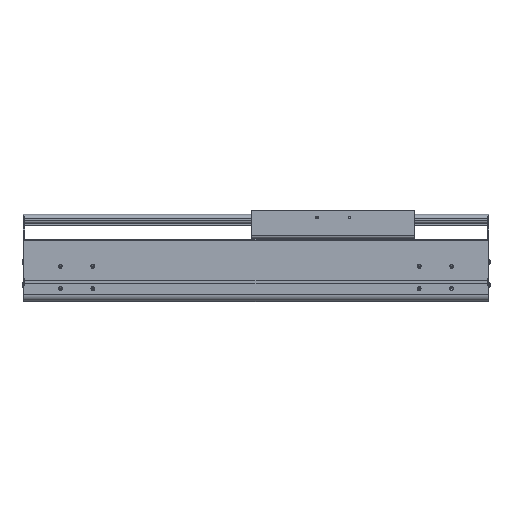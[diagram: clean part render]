
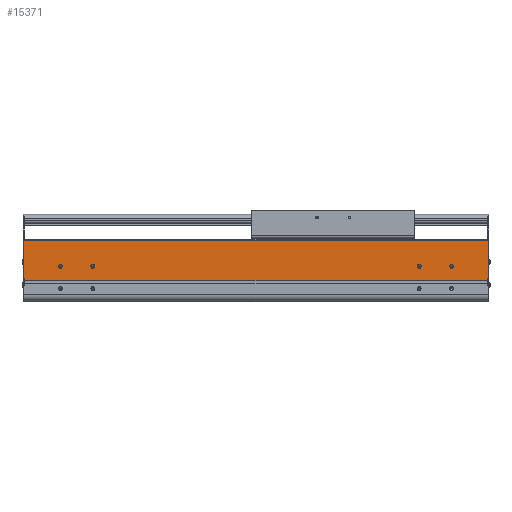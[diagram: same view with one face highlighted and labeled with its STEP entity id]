
A CAD part, top view. The second image highlights one B-rep face of the part: STEP entity #15371.
In plain terms, the highlighted planar face has unit normal (0, 0, 1).
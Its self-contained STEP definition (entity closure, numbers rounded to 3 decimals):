
#1626=DIRECTION('',(0.,-1.,0.));
#1627=VECTOR('',#1626,2.55);
#1628=CARTESIAN_POINT('',(0.,34.65,107.));
#1629=LINE('',#1628,#1627);
#2109=DIRECTION('',(1.,0.,0.));
#2110=VECTOR('',#2109,2.);
#2111=CARTESIAN_POINT('',(-711.,34.65,107.));
#2112=LINE('',#2111,#2110);
#2113=CARTESIAN_POINT('',(-54.5,54.,107.));
#2114=DIRECTION('',(0.,0.,-1.));
#2115=DIRECTION('',(1.,0.,0.));
#2116=AXIS2_PLACEMENT_3D('',#2113,#2114,#2115);
#2118=CARTESIAN_POINT('',(-54.5,54.,107.));
#2119=DIRECTION('',(0.,0.,-1.));
#2120=DIRECTION('',(-1.,0.,0.));
#2121=AXIS2_PLACEMENT_3D('',#2118,#2119,#2120);
#2123=CARTESIAN_POINT('',(-104.5,54.,107.));
#2124=DIRECTION('',(0.,0.,-1.));
#2125=DIRECTION('',(1.,0.,0.));
#2126=AXIS2_PLACEMENT_3D('',#2123,#2124,#2125);
#2128=CARTESIAN_POINT('',(-104.5,54.,107.));
#2129=DIRECTION('',(0.,0.,-1.));
#2130=DIRECTION('',(-1.,0.,0.));
#2131=AXIS2_PLACEMENT_3D('',#2128,#2129,#2130);
#2133=CARTESIAN_POINT('',(-654.5,54.,107.));
#2134=DIRECTION('',(0.,0.,-1.));
#2135=DIRECTION('',(1.,0.,0.));
#2136=AXIS2_PLACEMENT_3D('',#2133,#2134,#2135);
#2138=CARTESIAN_POINT('',(-654.5,54.,107.));
#2139=DIRECTION('',(0.,0.,-1.));
#2140=DIRECTION('',(-1.,0.,0.));
#2141=AXIS2_PLACEMENT_3D('',#2138,#2139,#2140);
#2143=CARTESIAN_POINT('',(-604.5,54.,107.));
#2144=DIRECTION('',(0.,0.,-1.));
#2145=DIRECTION('',(1.,0.,0.));
#2146=AXIS2_PLACEMENT_3D('',#2143,#2144,#2145);
#2148=CARTESIAN_POINT('',(-604.5,54.,107.));
#2149=DIRECTION('',(0.,0.,-1.));
#2150=DIRECTION('',(-1.,0.,0.));
#2151=AXIS2_PLACEMENT_3D('',#2148,#2149,#2150);
#2153=DIRECTION('',(0.,-1.,0.));
#2154=VECTOR('',#2153,2.55);
#2155=CARTESIAN_POINT('',(-709.,34.65,107.));
#2156=LINE('',#2155,#2154);
#2157=DIRECTION('',(0.,-1.,0.));
#2158=VECTOR('',#2157,58.85);
#2159=CARTESIAN_POINT('',(-711.,93.5,107.));
#2160=LINE('',#2159,#2158);
#2161=DIRECTION('',(0.,1.,0.));
#2162=VECTOR('',#2161,58.85);
#2163=CARTESIAN_POINT('',(2.,34.65,107.));
#2164=LINE('',#2163,#2162);
#2165=DIRECTION('',(1.,0.,0.));
#2166=VECTOR('',#2165,709.);
#2167=CARTESIAN_POINT('',(-709.,32.1,107.));
#2168=LINE('',#2167,#2166);
#2273=DIRECTION('',(-1.,0.,0.));
#2274=VECTOR('',#2273,713.);
#2275=CARTESIAN_POINT('',(2.,93.5,107.));
#2276=LINE('',#2275,#2274);
#8773=DIRECTION('',(1.,0.,0.));
#8774=VECTOR('',#8773,2.);
#8775=CARTESIAN_POINT('',(0.,34.65,107.));
#8776=LINE('',#8775,#8774);
#10023=CARTESIAN_POINT('',(-711.,34.65,107.));
#10024=VERTEX_POINT('',#10023);
#10025=CARTESIAN_POINT('',(-711.,93.5,107.));
#10026=VERTEX_POINT('',#10025);
#10255=CARTESIAN_POINT('',(-709.,32.1,107.));
#10256=VERTEX_POINT('',#10255);
#10615=CARTESIAN_POINT('',(0.,32.1,107.));
#10616=VERTEX_POINT('',#10615);
#10617=CARTESIAN_POINT('',(-52.,54.,107.));
#10618=CARTESIAN_POINT('',(-57.,54.,107.));
#10619=VERTEX_POINT('',#10617);
#10620=VERTEX_POINT('',#10618);
#10621=CARTESIAN_POINT('',(-102.,54.,107.));
#10622=CARTESIAN_POINT('',(-107.,54.,107.));
#10623=VERTEX_POINT('',#10621);
#10624=VERTEX_POINT('',#10622);
#10625=CARTESIAN_POINT('',(-652.,54.,107.));
#10626=CARTESIAN_POINT('',(-657.,54.,107.));
#10627=VERTEX_POINT('',#10625);
#10628=VERTEX_POINT('',#10626);
#10629=CARTESIAN_POINT('',(-602.,54.,107.));
#10630=CARTESIAN_POINT('',(-607.,54.,107.));
#10631=VERTEX_POINT('',#10629);
#10632=VERTEX_POINT('',#10630);
#11561=CARTESIAN_POINT('',(2.,34.65,107.));
#11562=VERTEX_POINT('',#11561);
#11563=CARTESIAN_POINT('',(2.,93.5,107.));
#11564=VERTEX_POINT('',#11563);
#11907=CARTESIAN_POINT('',(0.,34.65,107.));
#11908=VERTEX_POINT('',#11907);
#12095=CARTESIAN_POINT('',(-709.,34.65,107.));
#12096=VERTEX_POINT('',#12095);
#15329=CARTESIAN_POINT('',(-354.5,62.8,107.));
#15330=DIRECTION('',(0.,0.,1.));
#15331=DIRECTION('',(0.,-1.,0.));
#15332=AXIS2_PLACEMENT_3D('',#15329,#15330,#15331);
#15333=PLANE('',#15332);
#15334=ORIENTED_EDGE('',*,*,#13582,.F.);
#15335=ORIENTED_EDGE('',*,*,#15324,.F.);
#15336=ORIENTED_EDGE('',*,*,#14211,.F.);
#15338=ORIENTED_EDGE('',*,*,#15337,.F.);
#15339=ORIENTED_EDGE('',*,*,#13320,.F.);
#15341=ORIENTED_EDGE('',*,*,#15340,.F.);
#15342=ORIENTED_EDGE('',*,*,#14931,.T.);
#15344=ORIENTED_EDGE('',*,*,#15343,.F.);
#15345=EDGE_LOOP('',(#15334,#15335,#15336,#15338,#15339,#15341,#15342,#15344));
#15346=FACE_OUTER_BOUND('',#15345,.F.);
#15348=ORIENTED_EDGE('',*,*,#15347,.F.);
#15350=ORIENTED_EDGE('',*,*,#15349,.F.);
#15351=EDGE_LOOP('',(#15348,#15350));
#15352=FACE_BOUND('',#15351,.F.);
#15354=ORIENTED_EDGE('',*,*,#15353,.F.);
#15356=ORIENTED_EDGE('',*,*,#15355,.F.);
#15357=EDGE_LOOP('',(#15354,#15356));
#15358=FACE_BOUND('',#15357,.F.);
#15360=ORIENTED_EDGE('',*,*,#15359,.F.);
#15362=ORIENTED_EDGE('',*,*,#15361,.F.);
#15363=EDGE_LOOP('',(#15360,#15362));
#15364=FACE_BOUND('',#15363,.F.);
#15366=ORIENTED_EDGE('',*,*,#15365,.F.);
#15368=ORIENTED_EDGE('',*,*,#15367,.F.);
#15369=EDGE_LOOP('',(#15366,#15368));
#15370=FACE_BOUND('',#15369,.F.);
#15371=ADVANCED_FACE('',(#15346,#15352,#15358,#15364,#15370),#15333,.T.);
#2117=CIRCLE('',#2116,2.5);
#2122=CIRCLE('',#2121,2.5);
#2127=CIRCLE('',#2126,2.5);
#2132=CIRCLE('',#2131,2.5);
#2137=CIRCLE('',#2136,2.5);
#2142=CIRCLE('',#2141,2.5);
#2147=CIRCLE('',#2146,2.5);
#2152=CIRCLE('',#2151,2.5);
#13320=EDGE_CURVE('',#11562,#11564,#2164,.T.);
#13582=EDGE_CURVE('',#12096,#10256,#2156,.T.);
#14211=EDGE_CURVE('',#10026,#10024,#2160,.T.);
#14931=EDGE_CURVE('',#11908,#10616,#1629,.T.);
#15324=EDGE_CURVE('',#10024,#12096,#2112,.T.);
#15337=EDGE_CURVE('',#11564,#10026,#2276,.T.);
#15340=EDGE_CURVE('',#11908,#11562,#8776,.T.);
#15343=EDGE_CURVE('',#10256,#10616,#2168,.T.);
#15347=EDGE_CURVE('',#10623,#10624,#2127,.T.);
#15349=EDGE_CURVE('',#10624,#10623,#2132,.T.);
#15353=EDGE_CURVE('',#10627,#10628,#2137,.T.);
#15355=EDGE_CURVE('',#10628,#10627,#2142,.T.);
#15359=EDGE_CURVE('',#10631,#10632,#2147,.T.);
#15361=EDGE_CURVE('',#10632,#10631,#2152,.T.);
#15365=EDGE_CURVE('',#10619,#10620,#2117,.T.);
#15367=EDGE_CURVE('',#10620,#10619,#2122,.T.);
